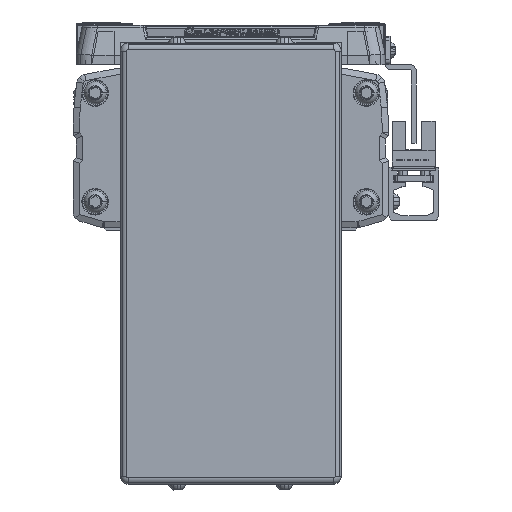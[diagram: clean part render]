
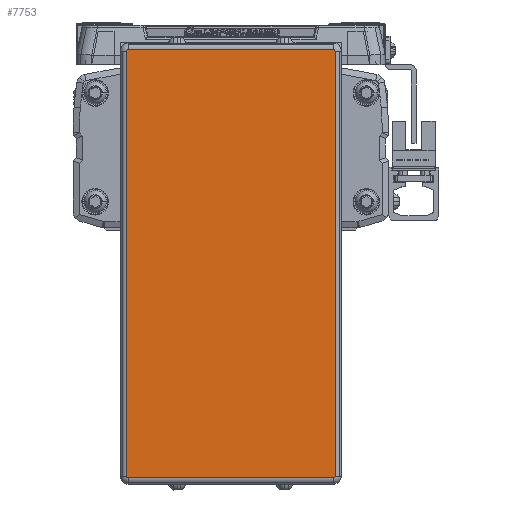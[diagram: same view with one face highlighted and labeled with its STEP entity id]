
A CAD part, left-side view. The second image highlights one B-rep face of the part: STEP entity #7753.
In plain terms, the highlighted planar face has unit normal (-1, 0, 0).
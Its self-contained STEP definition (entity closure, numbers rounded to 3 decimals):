
#7753=ADVANCED_FACE('',(#15686),#15687,.F.);
#15686=FACE_OUTER_BOUND('',#24283,.T.);
#15687=PLANE('',#24284);
#24283=EDGE_LOOP('',(#46301,#46302,#46303,#46304,#46305,#46306,#46307,#46308));
#24284=AXIS2_PLACEMENT_3D('',#46309,#46310,#46311);
#46301=ORIENTED_EDGE('',*,*,#56025,.T.);
#46302=ORIENTED_EDGE('',*,*,#55726,.T.);
#46303=ORIENTED_EDGE('',*,*,#50428,.T.);
#46304=ORIENTED_EDGE('',*,*,#54355,.T.);
#46305=ORIENTED_EDGE('',*,*,#50135,.T.);
#46306=ORIENTED_EDGE('',*,*,#55797,.T.);
#46307=ORIENTED_EDGE('',*,*,#47766,.T.);
#46308=ORIENTED_EDGE('',*,*,#53008,.T.);
#46309=CARTESIAN_POINT('',(-616.0,0.,-41.6));
#46310=DIRECTION('',(1.0,0.,0.));
#46311=DIRECTION('',(0.,0.,1.0));
#47766=EDGE_CURVE('',#56801,#56799,#56802,.T.);
#50135=EDGE_CURVE('',#60990,#60988,#60991,.T.);
#50428=EDGE_CURVE('',#61470,#61468,#61471,.T.);
#53008=EDGE_CURVE('',#56799,#65415,#65417,.T.);
#54355=EDGE_CURVE('',#61468,#60990,#67224,.T.);
#55726=EDGE_CURVE('',#68868,#61470,#68869,.T.);
#55797=EDGE_CURVE('',#60988,#56801,#68943,.T.);
#56025=EDGE_CURVE('',#65415,#68868,#69194,.T.);
#56799=VERTEX_POINT('',#70035);
#56801=VERTEX_POINT('',#70037);
#56802=LINE('',#70038,#70039);
#60988=VERTEX_POINT('',#75714);
#60990=VERTEX_POINT('',#75716);
#60991=LINE('',#75717,#75718);
#61468=VERTEX_POINT('',#76349);
#61470=VERTEX_POINT('',#76351);
#61471=LINE('',#76352,#76353);
#65415=VERTEX_POINT('',#81831);
#65417=CIRCLE('',#81833,0.5);
#67224=CIRCLE('',#84392,0.5);
#68868=VERTEX_POINT('',#86614);
#68869=CIRCLE('',#86615,0.5);
#68943=CIRCLE('',#86719,0.5);
#69194=LINE('',#87059,#87060);
#70035=CARTESIAN_POINT('',(-616.0,-32.55,-109.5));
#70037=CARTESIAN_POINT('',(-616.0,32.55,-109.5));
#70038=CARTESIAN_POINT('',(-616.0,0.,-109.5));
#70039=VECTOR('',#87954,10.0);
#75714=CARTESIAN_POINT('',(-616.0,33.05,-109.));
#75716=CARTESIAN_POINT('',(-616.,33.05,25.8));
#75717=CARTESIAN_POINT('',(-616.0,33.05,-41.6));
#75718=VECTOR('',#91359,10.0);
#76349=CARTESIAN_POINT('',(-616.,32.55,26.3));
#76351=CARTESIAN_POINT('',(-616.,-32.55,26.3));
#76352=CARTESIAN_POINT('',(-616.,0.,26.3));
#76353=VECTOR('',#91730,10.0);
#81831=CARTESIAN_POINT('',(-616.0,-33.05,-109.));
#81833=AXIS2_PLACEMENT_3D('',#95196,#95197,#95198);
#84392=AXIS2_PLACEMENT_3D('',#96821,#96822,#96823);
#86614=CARTESIAN_POINT('',(-616.,-33.05,25.8));
#86615=AXIS2_PLACEMENT_3D('',#98272,#98273,#98274);
#86719=AXIS2_PLACEMENT_3D('',#98334,#98335,#98336);
#87059=CARTESIAN_POINT('',(-616.,-33.05,-41.6));
#87060=VECTOR('',#98530,10.0);
#87954=DIRECTION('',(0.,-1.0,0.));
#91359=DIRECTION('',(0.,0.,-1.0));
#91730=DIRECTION('',(0.,1.0,0.));
#95196=CARTESIAN_POINT('',(-616.0,-32.55,-109.));
#95197=DIRECTION('',(-1.0,0.,0.));
#95198=DIRECTION('',(0.,-0.707,-0.707));
#96821=CARTESIAN_POINT('',(-616.,32.55,25.8));
#96822=DIRECTION('',(-1.0,0.,0.));
#96823=DIRECTION('',(0.,0.707,0.707));
#98272=CARTESIAN_POINT('',(-616.,-32.55,25.8));
#98273=DIRECTION('',(-1.0,0.,0.));
#98274=DIRECTION('',(0.,-0.707,0.707));
#98334=CARTESIAN_POINT('',(-616.0,32.55,-109.));
#98335=DIRECTION('',(-1.0,0.,0.));
#98336=DIRECTION('',(0.,0.707,-0.707));
#98530=DIRECTION('',(0.,0.,1.0));
